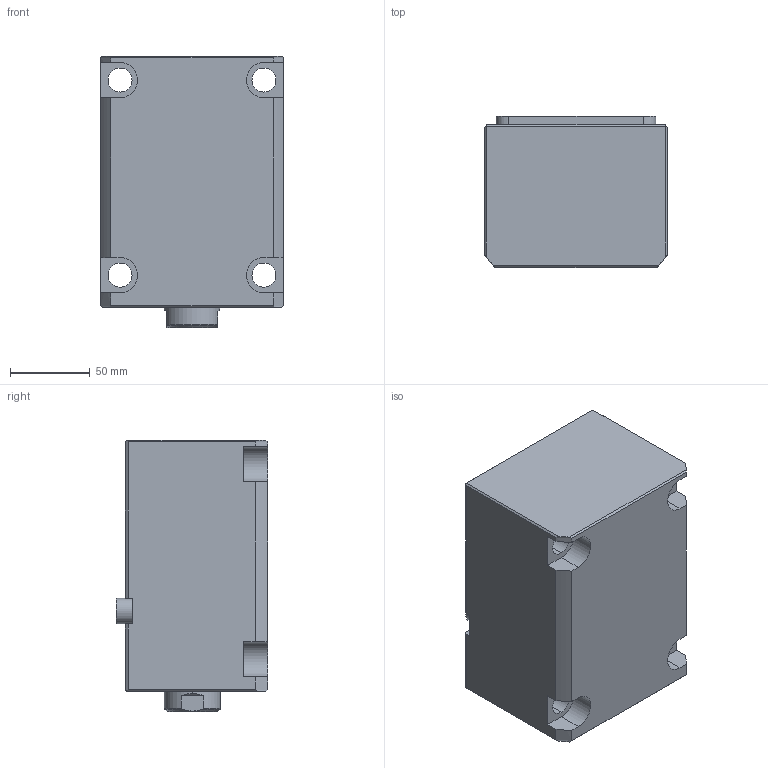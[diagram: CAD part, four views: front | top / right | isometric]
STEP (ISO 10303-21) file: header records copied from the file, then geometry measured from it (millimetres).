
FILE_DESCRIPTION (( 'STEP AP214' ), '1' );
FILE_NAME ('chtb-lam63x90n_asm.STEP', '2018-05-22T03:16:17', ( 'Windows' ), ( 'Microsoft' ), 'SwSTEP 2.0', 'SolidWorks 2015', '' );
FILE_SCHEMA (( 'AUTOMOTIVE_DESIGN' ));
Length unit declared in the file: millimetre
Products named in the file (5): CHTB-63QG; chtb-lam63x90n_asm; CHTB-LAM63X90NBT; CHTB-LA63PJ; CHTB63X90NHSG
Assembly tree (4 placements, depth 2):
  chtb-lam63x90n_asm
    CHTB-63QG
    CHTB63X90NHSG
    CHTB-LA63PJ
    CHTB-LAM63X90NBT
Bounding box: 114 x 94.5 x 170 mm (x, y, z)
Volume: 1322837.7 mm3; surface area: 179144.2 mm2
Topology: 4 solids, 4 shells, 183 faces, 539 edges, 366 vertices
Faces by surface type: cylinder 99, plane 55, bspline 13, cone 8, torus 8
Entity records: 19040 total; most frequent: CARTESIAN_POINT 14352, ORIENTED_EDGE 1066, DIRECTION 788, EDGE_CURVE 533, VERTEX_POINT 366, AXIS2_PLACEMENT_3D 291, LINE 206, VECTOR 206
